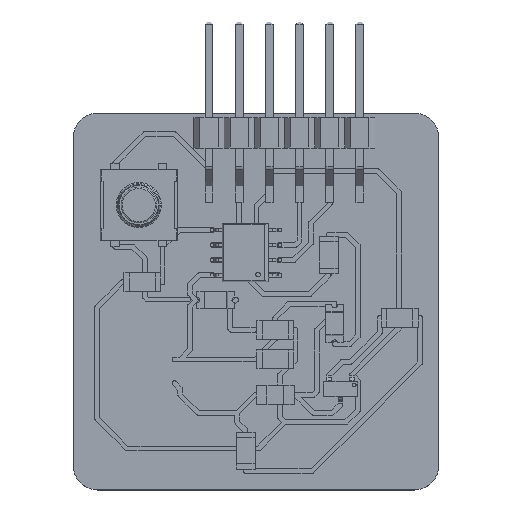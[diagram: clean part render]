
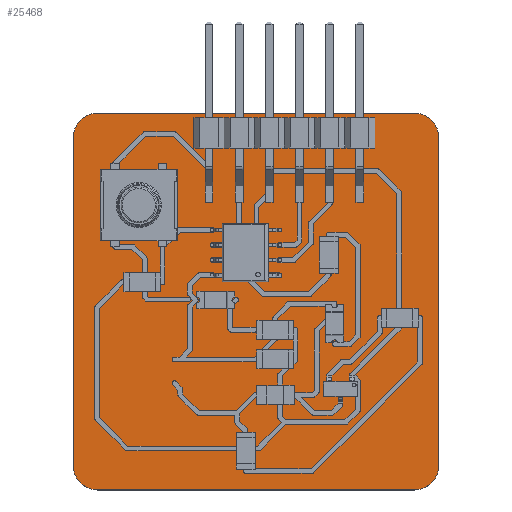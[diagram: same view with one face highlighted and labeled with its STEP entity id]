
A CAD part, top view. The second image highlights one B-rep face of the part: STEP entity #25468.
In plain terms, the highlighted planar face has unit normal (0, 0, 1).
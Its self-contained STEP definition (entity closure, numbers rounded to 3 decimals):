
#25203 = VERTEX_POINT('',#25204);
#25204 = CARTESIAN_POINT('',(155.25,-100.25,1.51));
#25210 = EDGE_CURVE('',#25203,#25211,#25213,.T.);
#25211 = VERTEX_POINT('',#25212);
#25212 = CARTESIAN_POINT('',(157.25,-102.25,1.51));
#25213 = CIRCLE('',#25214,2.);
#25214 = AXIS2_PLACEMENT_3D('',#25215,#25216,#25217);
#25215 = CARTESIAN_POINT('',(155.25,-102.25,1.51));
#25216 = DIRECTION('',(0.,0.,-1.));
#25217 = DIRECTION('',(0.,1.,0.));
#25243 = EDGE_CURVE('',#25211,#25244,#25246,.T.);
#25244 = VERTEX_POINT('',#25245);
#25245 = CARTESIAN_POINT('',(157.25,-130.,1.51));
#25246 = LINE('',#25247,#25248);
#25247 = CARTESIAN_POINT('',(157.25,-102.25,1.51));
#25248 = VECTOR('',#25249,1.);
#25249 = DIRECTION('',(0.,-1.,0.));
#25274 = EDGE_CURVE('',#25244,#25275,#25277,.T.);
#25275 = VERTEX_POINT('',#25276);
#25276 = CARTESIAN_POINT('',(155.25,-132.,1.51));
#25277 = CIRCLE('',#25278,2.);
#25278 = AXIS2_PLACEMENT_3D('',#25279,#25280,#25281);
#25279 = CARTESIAN_POINT('',(155.25,-130.,1.51));
#25280 = DIRECTION('',(0.,0.,-1.));
#25281 = DIRECTION('',(1.,0.,0.));
#25307 = EDGE_CURVE('',#25275,#25308,#25310,.T.);
#25308 = VERTEX_POINT('',#25309);
#25309 = CARTESIAN_POINT('',(128.5,-132.,1.51));
#25310 = LINE('',#25311,#25312);
#25311 = CARTESIAN_POINT('',(155.25,-132.,1.51));
#25312 = VECTOR('',#25313,1.);
#25313 = DIRECTION('',(-1.,0.,0.));
#25338 = EDGE_CURVE('',#25308,#25339,#25341,.T.);
#25339 = VERTEX_POINT('',#25340);
#25340 = CARTESIAN_POINT('',(126.5,-130.,1.51));
#25341 = CIRCLE('',#25342,2.);
#25342 = AXIS2_PLACEMENT_3D('',#25343,#25344,#25345);
#25343 = CARTESIAN_POINT('',(128.5,-130.,1.51));
#25344 = DIRECTION('',(0.,0.,-1.));
#25345 = DIRECTION('',(0.,-1.,0.));
#25371 = EDGE_CURVE('',#25339,#25372,#25374,.T.);
#25372 = VERTEX_POINT('',#25373);
#25373 = CARTESIAN_POINT('',(126.5,-102.25,1.51));
#25374 = LINE('',#25375,#25376);
#25375 = CARTESIAN_POINT('',(126.5,-130.,1.51));
#25376 = VECTOR('',#25377,1.);
#25377 = DIRECTION('',(0.,1.,0.));
#25402 = EDGE_CURVE('',#25372,#25403,#25405,.T.);
#25403 = VERTEX_POINT('',#25404);
#25404 = CARTESIAN_POINT('',(128.5,-100.25,1.51));
#25405 = CIRCLE('',#25406,2.);
#25406 = AXIS2_PLACEMENT_3D('',#25407,#25408,#25409);
#25407 = CARTESIAN_POINT('',(128.5,-102.25,1.51));
#25408 = DIRECTION('',(0.,0.,-1.));
#25409 = DIRECTION('',(-1.,0.,-0.));
#25435 = EDGE_CURVE('',#25403,#25203,#25436,.T.);
#25436 = LINE('',#25437,#25438);
#25437 = CARTESIAN_POINT('',(128.5,-100.25,1.51));
#25438 = VECTOR('',#25439,1.);
#25439 = DIRECTION('',(1.,0.,0.));
#25468 = ADVANCED_FACE('',(#25469),#25479,.T.);
#25469 = FACE_BOUND('',#25470,.F.);
#25470 = EDGE_LOOP('',(#25471,#25472,#25473,#25474,#25475,#25476,#25477,
    #25478));
#25471 = ORIENTED_EDGE('',*,*,#25210,.T.);
#25472 = ORIENTED_EDGE('',*,*,#25243,.T.);
#25473 = ORIENTED_EDGE('',*,*,#25274,.T.);
#25474 = ORIENTED_EDGE('',*,*,#25307,.T.);
#25475 = ORIENTED_EDGE('',*,*,#25338,.T.);
#25476 = ORIENTED_EDGE('',*,*,#25371,.T.);
#25477 = ORIENTED_EDGE('',*,*,#25402,.T.);
#25478 = ORIENTED_EDGE('',*,*,#25435,.T.);
#25479 = PLANE('',#25480);
#25480 = AXIS2_PLACEMENT_3D('',#25481,#25482,#25483);
#25481 = CARTESIAN_POINT('',(0.,0.,1.51));
#25482 = DIRECTION('',(0.,0.,1.));
#25483 = DIRECTION('',(1.,0.,-0.));
